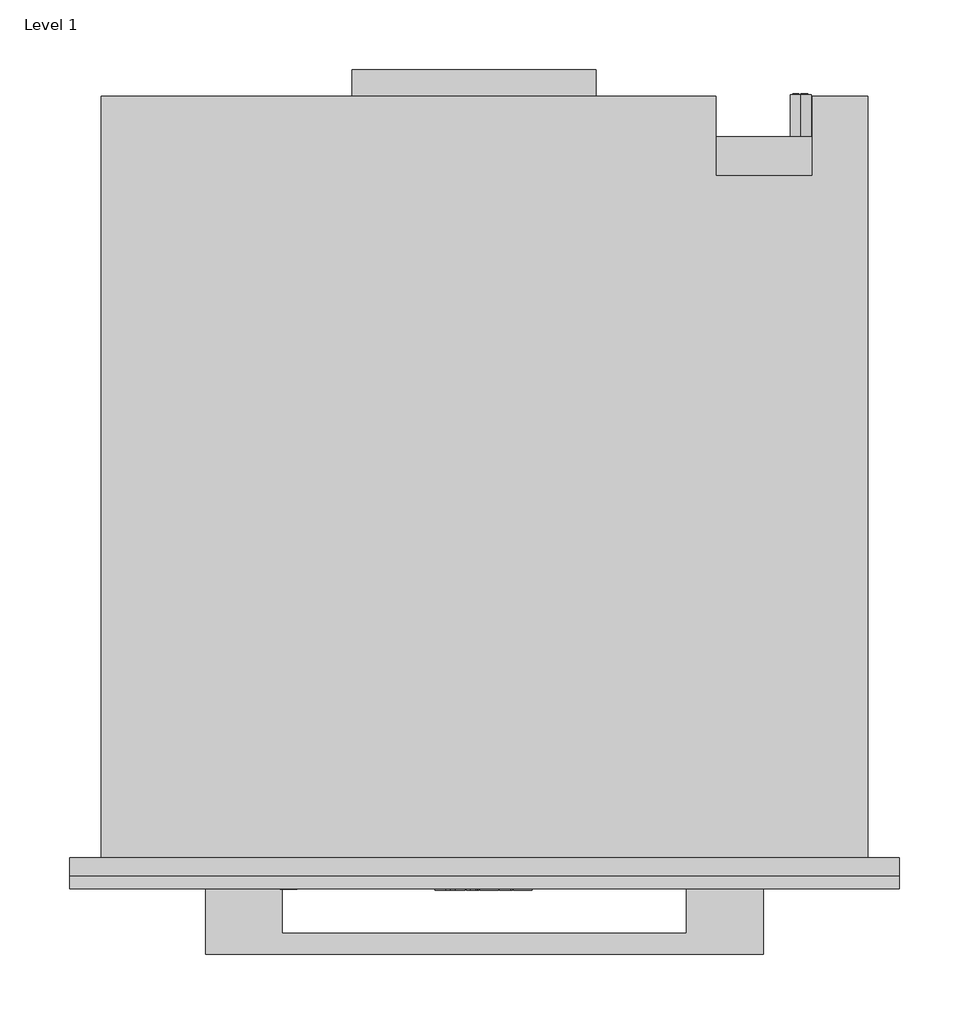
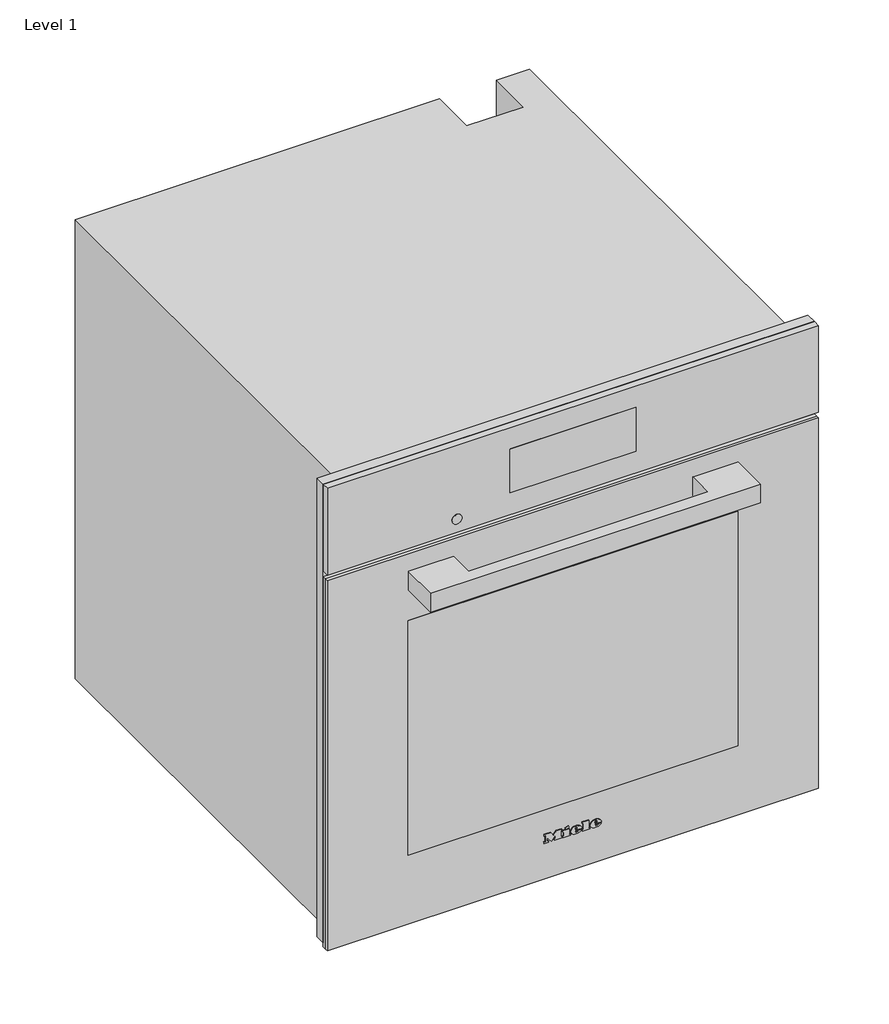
# One storey: 1 proxy.
"""IFC4 building model written with IfcOpenShell, lengths in millimetres."""

from ifc_helpers import new_model, si_unit, origin, place, context, project, spatial, transform, mapped, element, save
from components import specialty_equipment_37460341

model = new_model("IFC4")

# Units and contexts
model_context = context("Model", 3, world=origin())
ifc_project = project(units=[si_unit("LENGTHUNIT", "METRE", prefix="MILLI")], contexts=[model_context])

# Site, building, storey
site = spatial("IfcSite", under=ifc_project)
building = spatial("IfcBuilding", under=site)
storey = spatial("IfcBuildingStorey", under=building, Name="Level 1", Elevation=0.0)

# Proxy
placement = place(None, origin())
specialty_equipment_shape = specialty_equipment_37460341(model_context)
element("IfcBuildingElementProxy", 1, Name="11876990_USA_DGC7860_GRGR : 23786033_USA_11876990_DGC7860_GRGR", ObjectType="11876990_USA_DGC7860_GRGR : 23786033_USA_11876990_DGC7860_GRGR", at=placement, inside=storey, context=model_context, shape_type="MappedRepresentation", body=[
    mapped(specialty_equipment_shape, transform((0.0, 0.0, 0.0), x_axis=(1.0, 0.0, 0.0), y_axis=(0.0, 1.0, 0.0), z_axis=(0.0, 0.0, 1.0))),
])

save(model, "model.ifc")
